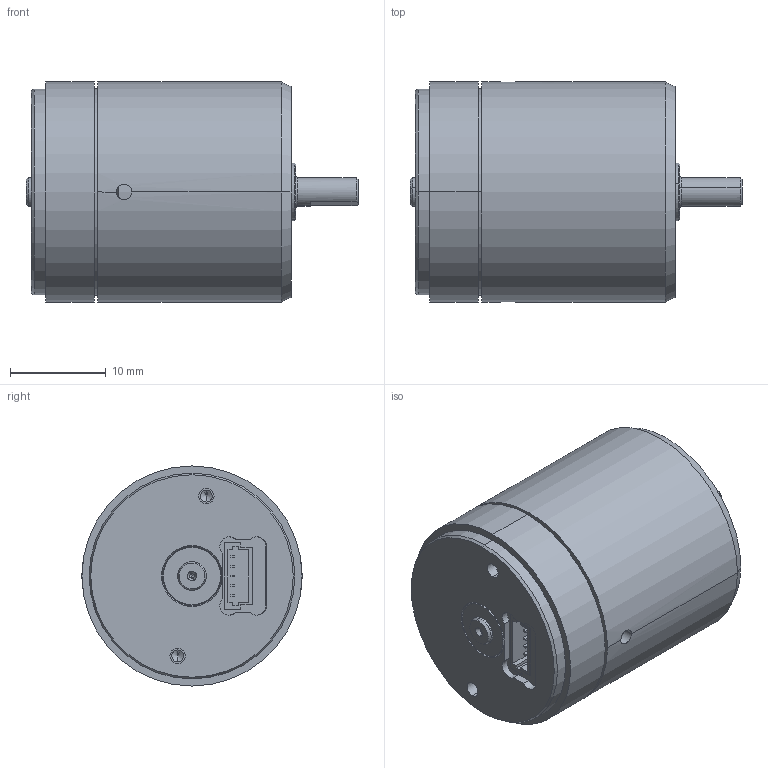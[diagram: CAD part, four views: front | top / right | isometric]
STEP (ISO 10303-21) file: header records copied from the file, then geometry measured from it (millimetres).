
FILE_DESCRIPTION (( 'STEP AP214' ), '1' );
FILE_NAME ('LR23-050C1AE0A00-PiezoMotor.STEP', '2019-09-30T21:22:17', ( '' ), ( '' ), 'SwSTEP 2.0', 'SolidWorks 2017', '' );
FILE_SCHEMA (( 'AUTOMOTIVE_DESIGN' ));
Length unit declared in the file: millimetre
Products named in the file (3): LR23-050C1AE0A00-Motor-PiezoMotor; LR23-050C1AE0A00-PiezoMotor; LR23-050C1AE0A00-MotorShaft-PiezoMotor
Assembly tree (2 placements, depth 2):
  LR23-050C1AE0A00-PiezoMotor
    LR23-050C1AE0A00-MotorShaft-PiezoMotor
    LR23-050C1AE0A00-Motor-PiezoMotor
Bounding box: 34.7 x 23 x 23 mm (x, y, z)
Volume: 7392.6 mm3; surface area: 7475.4 mm2
Topology: 4 solids, 4 shells, 330 faces, 772 edges, 473 vertices
Faces by surface type: plane 126, cylinder 105, cone 71, torus 28
Entity records: 10169 total; most frequent: DIRECTION 1728, CARTESIAN_POINT 1720, ORIENTED_EDGE 1512, EDGE_CURVE 756, AXIS2_PLACEMENT_3D 655, VERTEX_POINT 473, VECTOR 418, LINE 418
